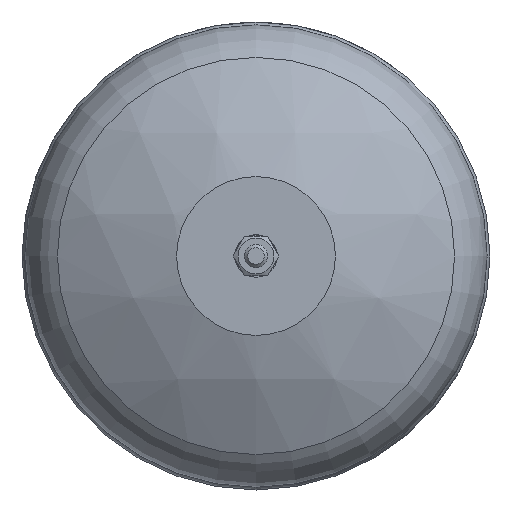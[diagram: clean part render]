
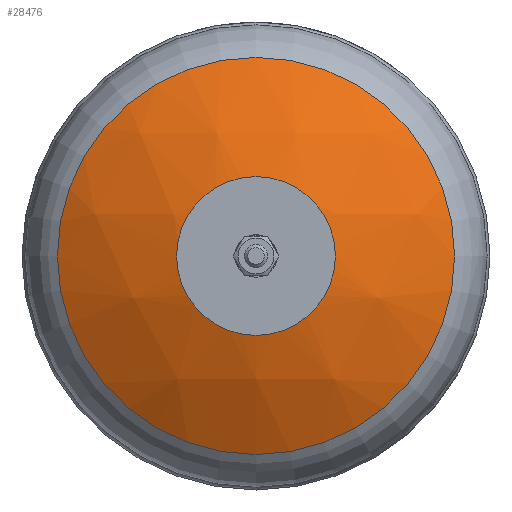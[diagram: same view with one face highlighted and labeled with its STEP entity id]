
A CAD part, front view. The second image highlights one B-rep face of the part: STEP entity #28476.
In plain terms, the highlighted spherical face has radius 159 mm.
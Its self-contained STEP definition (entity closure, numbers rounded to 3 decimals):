
#1072=SPHERICAL_SURFACE('',#30680,159.);
#5362=FACE_BOUND('',#9802,.T.);
#8035=FACE_OUTER_BOUND('',#9801,.T.);
#9801=EDGE_LOOP('',(#25955));
#9802=EDGE_LOOP('',(#25956));
#10518=CIRCLE('',#30679,85.047);
#10519=CIRCLE('',#30681,34.);
#13341=VERTEX_POINT('',#61276);
#13342=VERTEX_POINT('',#61279);
#17557=EDGE_CURVE('',#13341,#13341,#10518,.T.);
#17558=EDGE_CURVE('',#13342,#13342,#10519,.T.);
#25955=ORIENTED_EDGE('',*,*,#17557,.T.);
#25956=ORIENTED_EDGE('',*,*,#17558,.F.);
#28476=ADVANCED_FACE('',(#8035,#5362),#1072,.T.);
#30679=AXIS2_PLACEMENT_3D('',#61277,#37002,#37003);
#30680=AXIS2_PLACEMENT_3D('',#61278,#37004,#37005);
#30681=AXIS2_PLACEMENT_3D('',#61280,#37006,#37007);
#37002=DIRECTION('center_axis',(0.,-1.,0.));
#37003=DIRECTION('ref_axis',(1.,0.,0.));
#37004=DIRECTION('center_axis',(0.,0.,
1.));
#37005=DIRECTION('ref_axis',(-1.,0.,0.));
#37006=DIRECTION('center_axis',(0.,-1.,0.));
#37007=DIRECTION('ref_axis',(1.,0.,0.));
#61276=CARTESIAN_POINT('',(85.047,-149.021,0.));
#61277=CARTESIAN_POINT('Origin',(0.,-149.021,
0.));
#61278=CARTESIAN_POINT('Origin',(0.,-14.678,
0.));
#61279=CARTESIAN_POINT('',(34.,-170.,0.));
#61280=CARTESIAN_POINT('Origin',(0.,-170.,0.));
